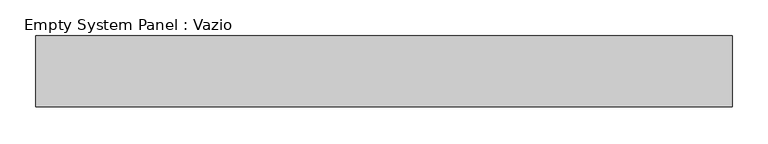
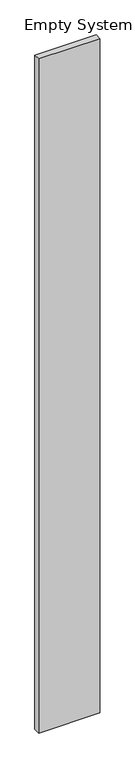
"""IFC4 building model written with IfcOpenShell, lengths in millimetres: plate geometry, Empty System Panel : Vazio."""

from ifc_helpers import new_model, si_unit, frame, origin, place, context, project, spatial, polyline, outline, extrude, source, transform, mapped, element, save


def empty_system_panel_vazio_a9720741(model_context):
    return source(origin(), model_context, "Body", "SweptSolid", [
        extrude(outline(polyline([(0.0, -490.0), (0.0, 490.0), (11384.4113244, 490.0), (11384.3498653, -490.0), (0.0, -490.0)])), frame((0.0, 50.0, 0.0), z_axis=(0.0, 1.0, 0.0), x_axis=(0.0, 0.0, 1.0)), (0.0, 0.0, 1.0), 100.0),
    ])


if __name__ == "__main__":
    model = new_model("IFC4")
    model_context = context("Model", 3, world=origin())
    ifc_project = project(units=[si_unit("LENGTHUNIT", "METRE", prefix="MILLI")], contexts=[model_context])
    site = spatial("IfcSite", under=ifc_project)
    building = spatial("IfcBuilding", under=site)
    placement = place(None, origin())
    empty_system_panel_vazio_shape = empty_system_panel_vazio_a9720741(model_context)
    element("IfcPlate", 1, ObjectType="Empty System Panel : Vazio", at=placement, inside=building, context=model_context, shape_type="MappedRepresentation", body=[
        mapped(empty_system_panel_vazio_shape, transform((0.0, 0.0, 0.0), x_axis=(1.0, 0.0, 0.0), y_axis=(0.0, 1.0, 0.0), z_axis=(0.0, 0.0, 1.0))),
    ])
    save(model, "model.ifc")
